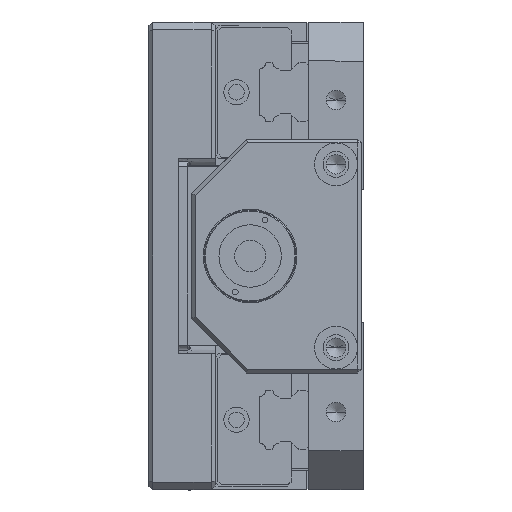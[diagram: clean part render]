
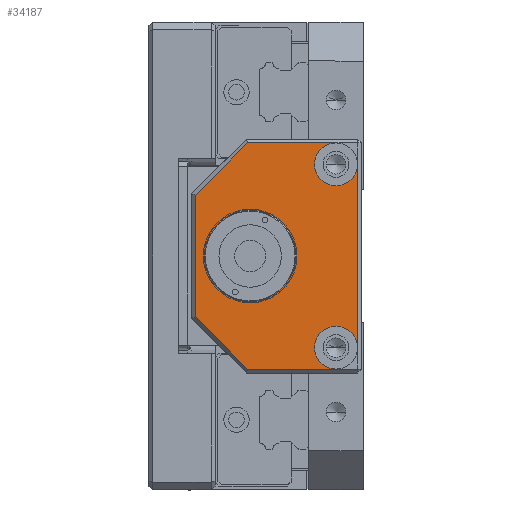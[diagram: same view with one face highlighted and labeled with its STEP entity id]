
A CAD part, left-side view. The second image highlights one B-rep face of the part: STEP entity #34187.
In plain terms, the highlighted planar face has unit normal (-1, 0, 0).
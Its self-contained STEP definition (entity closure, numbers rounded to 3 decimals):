
#1587 = CARTESIAN_POINT ( 'NONE',  ( -293.22, 340.954, 430.523 ) ) ;
#1826 = EDGE_CURVE ( 'NONE', #13077, #41039, #16652, .T. ) ;
#4575 = FACE_BOUND ( 'NONE', #95121, .T. ) ;
#6991 = CARTESIAN_POINT ( 'NONE',  ( -293.22, 334.204, 389.773 ) ) ;
#7268 = CARTESIAN_POINT ( 'NONE',  ( -293.22, 313.454, 418.773 ) ) ;
#7532 = DIRECTION ( 'NONE',  ( 0., 0., 1. ) ) ;
#10075 = CARTESIAN_POINT ( 'NONE',  ( -293.22, 340.954, 418.773 ) ) ;
#11254 = CARTESIAN_POINT ( 'NONE',  ( -293.22, 318.954, 389.773 ) ) ;
#13077 = VERTEX_POINT ( 'NONE', #87062 ) ;
#13175 = DIRECTION ( 'NONE',  ( -1., 0., 0. ) ) ;
#14133 = LINE ( 'NONE', #6991, #123505 ) ;
#15371 = CARTESIAN_POINT ( 'NONE',  ( -293.22, 340.954, 418.773 ) ) ;
#16525 = DIRECTION ( 'NONE',  ( 0., 0.707, 0.707 ) ) ;
#16652 = LINE ( 'NONE', #84894, #119914 ) ;
#17527 = AXIS2_PLACEMENT_3D ( 'NONE', #54756, #25427, #7532 ) ;
#19099 = VERTEX_POINT ( 'NONE', #1587 ) ;
#21020 = ORIENTED_EDGE ( 'NONE', *, *, #53332, .F. ) ;
#21437 = CIRCLE ( 'NONE', #17527, 5.5 ) ;
#21746 = CARTESIAN_POINT ( 'NONE',  ( -293.22, 318.954, 400.773 ) ) ;
#22481 = DIRECTION ( 'NONE',  ( -1., 0., 0. ) ) ;
#23025 = ORIENTED_EDGE ( 'NONE', *, *, #66435, .F. ) ;
#24121 = VERTEX_POINT ( 'NONE', #82498 ) ;
#24704 = ORIENTED_EDGE ( 'NONE', *, *, #56307, .F. ) ;
#24768 = LINE ( 'NONE', #89931, #93115 ) ;
#24920 = VERTEX_POINT ( 'NONE', #121331 ) ;
#25427 = DIRECTION ( 'NONE',  ( -1., 0., 0. ) ) ;
#28433 = AXIS2_PLACEMENT_3D ( 'NONE', #10075, #88649, #98383 ) ;
#30276 = CARTESIAN_POINT ( 'NONE',  ( -293.22, 334.204, 447.773 ) ) ;
#31556 = AXIS2_PLACEMENT_3D ( 'NONE', #122829, #122401, #93599 ) ;
#34187 = ADVANCED_FACE ( 'NONE', ( #4575, #74514 ), #85145, .F. ) ;
#35554 = CIRCLE ( 'NONE', #49017, 5.5 ) ;
#35764 = CARTESIAN_POINT ( 'NONE',  ( -293.22, 318.954, 395.273 ) ) ;
#37454 = EDGE_LOOP ( 'NONE', ( #24704, #23025, #74511, #124291, #108326, #92624, #21020, #38419, #107166, #40158 ) ) ;
#38334 = DIRECTION ( 'NONE',  ( 0., -1., 0. ) ) ;
#38419 = ORIENTED_EDGE ( 'NONE', *, *, #87763, .F. ) ;
#39598 = AXIS2_PLACEMENT_3D ( 'NONE', #80613, #22481, #107809 ) ;
#40158 = ORIENTED_EDGE ( 'NONE', *, *, #91265, .F. ) ;
#40519 = CIRCLE ( 'NONE', #57045, 5.5 ) ;
#41039 = VERTEX_POINT ( 'NONE', #55657 ) ;
#41228 = CARTESIAN_POINT ( 'NONE',  ( -293.22, 318.954, 395.273 ) ) ;
#41729 = EDGE_CURVE ( 'NONE', #24121, #19099, #105936, .T. ) ;
#43557 = LINE ( 'NONE', #66159, #108886 ) ;
#43905 = LINE ( 'NONE', #30276, #85055 ) ;
#44449 = EDGE_CURVE ( 'NONE', #41039, #113901, #24768, .T. ) ;
#45677 = VERTEX_POINT ( 'NONE', #79579 ) ;
#46080 = DIRECTION ( 'NONE',  ( 0., 1., 0. ) ) ;
#49017 = AXIS2_PLACEMENT_3D ( 'NONE', #41228, #13175, #118893 ) ;
#49662 = ORIENTED_EDGE ( 'NONE', *, *, #41729, .F. ) ;
#53332 = EDGE_CURVE ( 'NONE', #69361, #13077, #43557, .T. ) ;
#54756 = CARTESIAN_POINT ( 'NONE',  ( -293.22, 318.954, 442.273 ) ) ;
#55657 = CARTESIAN_POINT ( 'NONE',  ( -293.22, 354.954, 434.359 ) ) ;
#55985 = DIRECTION ( 'NONE',  ( 0., 0., 1. ) ) ;
#56307 = EDGE_CURVE ( 'NONE', #57490, #45677, #78406, .T. ) ;
#57045 = AXIS2_PLACEMENT_3D ( 'NONE', #35764, #94789, #75256 ) ;
#57457 = DIRECTION ( 'NONE',  ( -1., 0., 0. ) ) ;
#57490 = VERTEX_POINT ( 'NONE', #78118 ) ;
#58533 = CARTESIAN_POINT ( 'NONE',  ( -293.22, 341.54, 389.773 ) ) ;
#61011 = DIRECTION ( 'NONE',  ( 0., -0.707, 0.707 ) ) ;
#62646 = CARTESIAN_POINT ( 'NONE',  ( -293.22, 341.54, 447.773 ) ) ;
#66159 = CARTESIAN_POINT ( 'NONE',  ( -293.22, 355.331, 403.564 ) ) ;
#66435 = EDGE_CURVE ( 'NONE', #72731, #57490, #121443, .T. ) ;
#69361 = VERTEX_POINT ( 'NONE', #58533 ) ;
#72355 = ORIENTED_EDGE ( 'NONE', *, *, #102902, .F. ) ;
#72731 = VERTEX_POINT ( 'NONE', #84628 ) ;
#74511 = ORIENTED_EDGE ( 'NONE', *, *, #88758, .F. ) ;
#74514 = FACE_OUTER_BOUND ( 'NONE', #37454, .T. ) ;
#75218 = DIRECTION ( 'NONE',  ( 0., 0., -1. ) ) ;
#75256 = DIRECTION ( 'NONE',  ( 0., 0., 1. ) ) ;
#77398 = DIRECTION ( 'NONE',  ( 0., 0., -1. ) ) ;
#78118 = CARTESIAN_POINT ( 'NONE',  ( -293.22, 313.454, 442.273 ) ) ;
#78406 = LINE ( 'NONE', #7268, #89034 ) ;
#79579 = CARTESIAN_POINT ( 'NONE',  ( -293.22, 313.454, 395.273 ) ) ;
#80613 = CARTESIAN_POINT ( 'NONE',  ( -293.22, 318.954, 442.273 ) ) ;
#82498 = CARTESIAN_POINT ( 'NONE',  ( -293.22, 340.954, 407.023 ) ) ;
#83666 = EDGE_CURVE ( 'NONE', #113901, #24920, #43905, .T. ) ;
#84628 = CARTESIAN_POINT ( 'NONE',  ( -293.22, 318.954, 436.773 ) ) ;
#84894 = CARTESIAN_POINT ( 'NONE',  ( -293.22, 354.954, 418.773 ) ) ;
#85055 = VECTOR ( 'NONE', #38334, 1000. ) ;
#85145 = PLANE ( 'NONE',  #31556 ) ;
#87062 = CARTESIAN_POINT ( 'NONE',  ( -293.22, 354.954, 403.187 ) ) ;
#87763 = EDGE_CURVE ( 'NONE', #104768, #69361, #14133, .T. ) ;
#88649 = DIRECTION ( 'NONE',  ( -1., 0., 0. ) ) ;
#88758 = EDGE_CURVE ( 'NONE', #24920, #72731, #21437, .T. ) ;
#89034 = VECTOR ( 'NONE', #75218, 1000. ) ;
#89931 = CARTESIAN_POINT ( 'NONE',  ( -293.22, 341.163, 448.15 ) ) ;
#90153 = AXIS2_PLACEMENT_3D ( 'NONE', #15371, #57457, #77398 ) ;
#91265 = EDGE_CURVE ( 'NONE', #45677, #121887, #40519, .T. ) ;
#92624 = ORIENTED_EDGE ( 'NONE', *, *, #1826, .F. ) ;
#93115 = VECTOR ( 'NONE', #61011, 1000. ) ;
#93599 = DIRECTION ( 'NONE',  ( 0., 0., -1. ) ) ;
#94789 = DIRECTION ( 'NONE',  ( -1., 0., 0. ) ) ;
#95121 = EDGE_LOOP ( 'NONE', ( #49662, #72355 ) ) ;
#98383 = DIRECTION ( 'NONE',  ( 0., 0., -1. ) ) ;
#102902 = EDGE_CURVE ( 'NONE', #19099, #24121, #111017, .T. ) ;
#104768 = VERTEX_POINT ( 'NONE', #11254 ) ;
#105936 = CIRCLE ( 'NONE', #28433, 11.75 ) ;
#107166 = ORIENTED_EDGE ( 'NONE', *, *, #113266, .F. ) ;
#107809 = DIRECTION ( 'NONE',  ( 0., 0., 1. ) ) ;
#108326 = ORIENTED_EDGE ( 'NONE', *, *, #44449, .F. ) ;
#108886 = VECTOR ( 'NONE', #16525, 1000. ) ;
#111017 = CIRCLE ( 'NONE', #90153, 11.75 ) ;
#113266 = EDGE_CURVE ( 'NONE', #121887, #104768, #35554, .T. ) ;
#113901 = VERTEX_POINT ( 'NONE', #62646 ) ;
#118893 = DIRECTION ( 'NONE',  ( 0., 0., 1. ) ) ;
#119914 = VECTOR ( 'NONE', #55985, 1000. ) ;
#121331 = CARTESIAN_POINT ( 'NONE',  ( -293.22, 318.954, 447.773 ) ) ;
#121443 = CIRCLE ( 'NONE', #39598, 5.5 ) ;
#121887 = VERTEX_POINT ( 'NONE', #21746 ) ;
#122401 = DIRECTION ( 'NONE',  ( 1., 0., 0. ) ) ;
#122829 = CARTESIAN_POINT ( 'NONE',  ( -293.22, 313.454, 447.773 ) ) ;
#123505 = VECTOR ( 'NONE', #46080, 1000. ) ;
#124291 = ORIENTED_EDGE ( 'NONE', *, *, #83666, .F. ) ;
